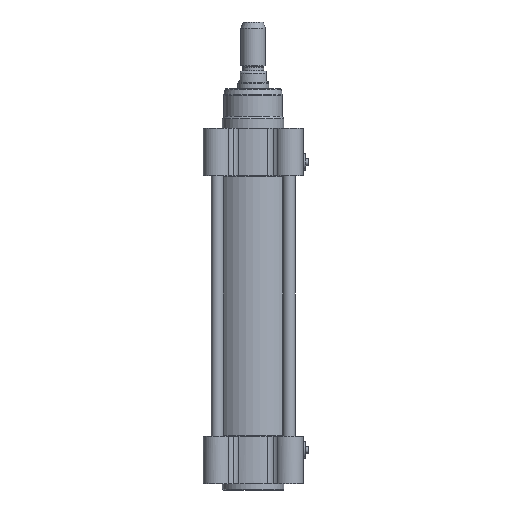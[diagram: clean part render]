
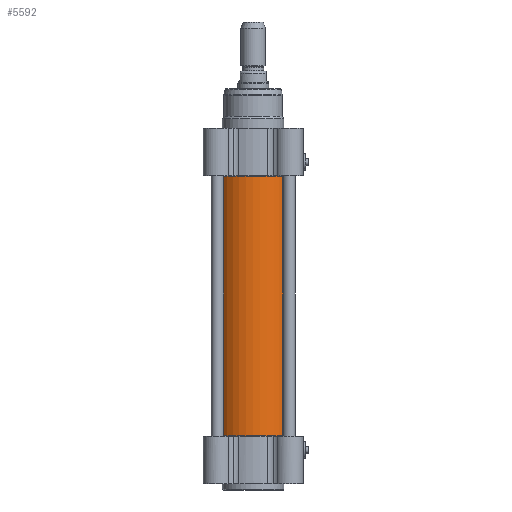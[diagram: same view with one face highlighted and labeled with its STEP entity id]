
A CAD part, front view. The second image highlights one B-rep face of the part: STEP entity #5592.
In plain terms, the highlighted cylindrical face has radius 26.5 mm (diameter 53 mm), a partial arc.
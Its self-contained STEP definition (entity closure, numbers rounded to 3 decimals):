
#1018 = CARTESIAN_POINT ( 'NONE',  ( 26.5, 0., 0. ) ) ;
#1698 = VECTOR ( 'NONE', #9368, 1000. ) ;
#2385 = VECTOR ( 'NONE', #12390, 1000. ) ;
#3080 = LINE ( 'NONE', #1018, #1698 ) ;
#3359 = ORIENTED_EDGE ( 'NONE', *, *, #15046, .F. ) ;
#4562 = CYLINDRICAL_SURFACE ( 'NONE', #25650, 26.5 ) ;
#4635 = CIRCLE ( 'NONE', #18208, 26.5 ) ;
#5313 = VERTEX_POINT ( 'NONE', #17339 ) ;
#5592 = ADVANCED_FACE ( 'NONE', ( #23891 ), #4562, .T. ) ;
#6320 = CARTESIAN_POINT ( 'NONE',  ( 0., 0., 168.8 ) ) ;
#6513 = LINE ( 'NONE', #10066, #2385 ) ;
#7098 = DIRECTION ( 'NONE',  ( -1., 0., 0. ) ) ;
#7287 = CARTESIAN_POINT ( 'NONE',  ( 0., 0., 0.2 ) ) ;
#7623 = CARTESIAN_POINT ( 'NONE',  ( 26.5, 0., 168.8 ) ) ;
#8748 = EDGE_LOOP ( 'NONE', ( #21163, #27072, #3359, #11216 ) ) ;
#9284 = CIRCLE ( 'NONE', #11896, 26.5 ) ;
#9368 = DIRECTION ( 'NONE',  ( 0., 0., 1. ) ) ;
#9600 = DIRECTION ( 'NONE',  ( -1., 0., 0. ) ) ;
#10066 = CARTESIAN_POINT ( 'NONE',  ( -26.5, 0., 0. ) ) ;
#10369 = VERTEX_POINT ( 'NONE', #22367 ) ;
#11216 = ORIENTED_EDGE ( 'NONE', *, *, #16627, .F. ) ;
#11397 = DIRECTION ( 'NONE',  ( 0., 0., -1. ) ) ;
#11896 = AXIS2_PLACEMENT_3D ( 'NONE', #7287, #11397, #9600 ) ;
#12390 = DIRECTION ( 'NONE',  ( 0., 0., 1. ) ) ;
#12453 = EDGE_CURVE ( 'NONE', #10369, #5313, #9284, .T. ) ;
#13192 = DIRECTION ( 'NONE',  ( -1., 0., 0. ) ) ;
#14296 = CARTESIAN_POINT ( 'NONE',  ( -26.5, 0., 168.8 ) ) ;
#15046 = EDGE_CURVE ( 'NONE', #23696, #19992, #4635, .T. ) ;
#16627 = EDGE_CURVE ( 'NONE', #5313, #23696, #6513, .T. ) ;
#17299 = DIRECTION ( 'NONE',  ( 0., 0., 1. ) ) ;
#17339 = CARTESIAN_POINT ( 'NONE',  ( -26.5, 0., 0.2 ) ) ;
#17580 = CARTESIAN_POINT ( 'NONE',  ( 0., 0., 0. ) ) ;
#18208 = AXIS2_PLACEMENT_3D ( 'NONE', #6320, #25873, #7098 ) ;
#19992 = VERTEX_POINT ( 'NONE', #7623 ) ;
#21163 = ORIENTED_EDGE ( 'NONE', *, *, #12453, .F. ) ;
#22367 = CARTESIAN_POINT ( 'NONE',  ( 26.5, 0., 0.2 ) ) ;
#22860 = EDGE_CURVE ( 'NONE', #10369, #19992, #3080, .T. ) ;
#23696 = VERTEX_POINT ( 'NONE', #14296 ) ;
#23891 = FACE_OUTER_BOUND ( 'NONE', #8748, .T. ) ;
#25650 = AXIS2_PLACEMENT_3D ( 'NONE', #17580, #17299, #13192 ) ;
#25873 = DIRECTION ( 'NONE',  ( 0., 0., 1. ) ) ;
#27072 = ORIENTED_EDGE ( 'NONE', *, *, #22860, .T. ) ;
